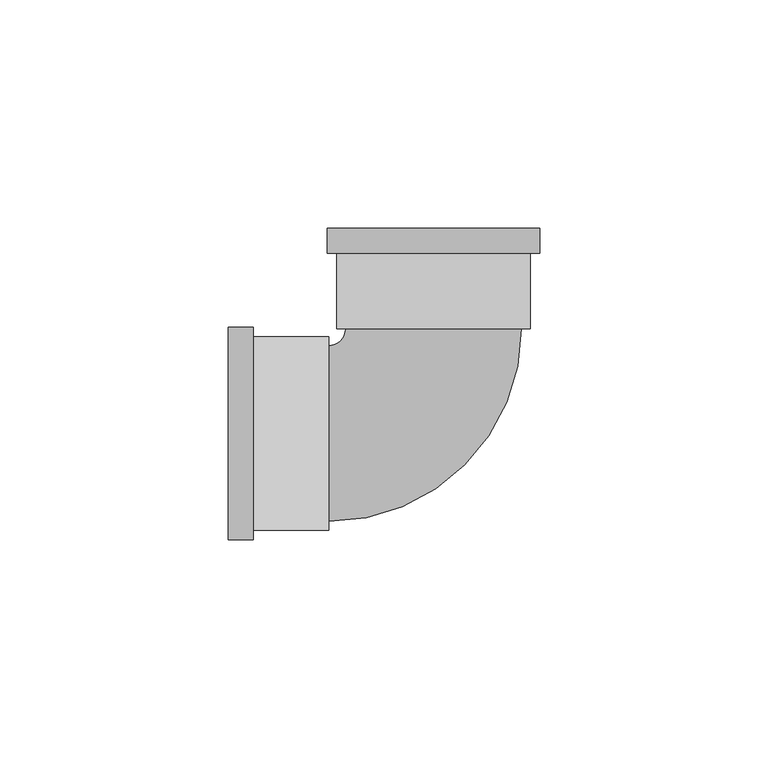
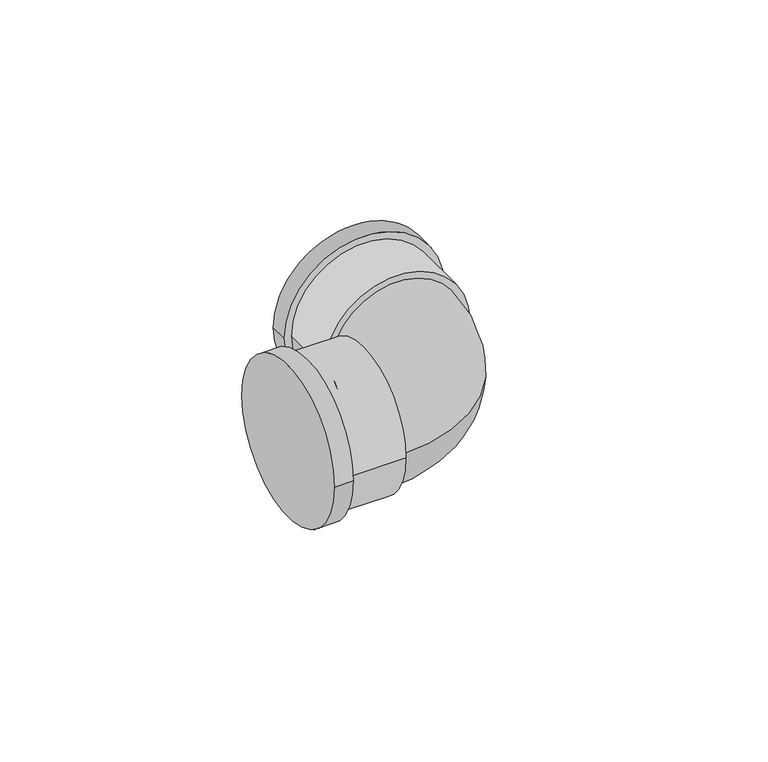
"""IFC4 building model written with IfcOpenShell, lengths in millimetres: pipe fitting geometry, Cotovelo - PVC - CW : Padrão."""

from ifc_helpers import new_model, si_unit, point, frame, origin, place, context, project, spatial, circle_curve, ellipse_curve, trimmed, source, transform, mapped, element, save
from ifc_brep_helpers import plane_surface, cylinder_surface, revolved_surface, advanced_brep


def pipe_fitting_5643bdf7(model_context):
    return source(origin(), model_context, "Body", "AdvancedBrep", [
        advanced_brep(
        [(-45.0005706, -23.2925, 0.0), (-45.0005706, 23.2925, 0.0), (-39.5005706, -23.2925, 0.0), (-39.5005706, 23.2925, 0.0), (-39.5005706, -21.175, 0.0), (-39.5005706, 21.175, 0.0), (-23.0005706, 21.175, 0.0), (-23.0005706, -21.175, 0.0), (-23.0005706, -19.25, 0.0), (-23.0005706, 19.25, 0.0), (-19.2505706, 23.000093, 0.0), (19.2494294, 23.0010482, 0.0), (21.1744294, 23.0010959, 0.0), (-21.1755706, 23.0000453, 0.0), (-23.2936164, 44.9999927, 0.0), (23.2913836, 45.0011484, 0.0), (21.17402, 39.5010959, 0.0), (-21.17598, 39.5000453, 0.0), (-23.29348, 39.4999927, 0.0), (23.29152, 39.5011485, 0.0)],
        [
            (0, 1, circle_curve(frame((-45.0005706, 0.0, 0.0), z_axis=(-1.0, 0.0, 0.0), x_axis=(0.0, 1.0, 0.0)), 23.2925)),
            (1, 0, circle_curve(frame((-45.0005706, 0.0, 0.0), z_axis=(-1.0, 0.0, 0.0), x_axis=(0.0, 1.0, 0.0)), 23.2925)),
            (2, 3, circle_curve(frame((-39.5005706, 0.0, 0.0), z_axis=(1.0, 0.0, 0.0), x_axis=(0.0, 1.0, 0.0)), 23.2925)),
            (3, 2, circle_curve(frame((-39.5005706, 0.0, 0.0), z_axis=(1.0, 0.0, 0.0), x_axis=(0.0, 1.0, 0.0)), 23.2925)),
            (4, 5, circle_curve(frame((-39.5005706, 0.0, 0.0), z_axis=(-1.0, 0.0, 0.0), x_axis=(0.0, -1.0, 0.0)), 21.175)),
            (5, 4, circle_curve(frame((-39.5005706, 0.0, 0.0), z_axis=(-1.0, 0.0, 0.0), x_axis=(0.0, -1.0, 0.0)), 21.175)),
            (0, 2),
            (3, 1),
            (6, 7, circle_curve(frame((-23.0005706, 0.0, 0.0), z_axis=(1.0, 0.0, 0.0), x_axis=(0.0, -1.0, 0.0)), 21.175)),
            (7, 6, circle_curve(frame((-23.0005706, 0.0, 0.0), z_axis=(1.0, 0.0, 0.0), x_axis=(0.0, -1.0, 0.0)), 21.175)),
            (8, 9, circle_curve(frame((-23.0005706, 0.0, 0.0), z_axis=(-1.0, 0.0, 0.0), x_axis=(0.0, 1.0, 0.0)), 19.25)),
            (9, 8, circle_curve(frame((-23.0005706, 0.0, 0.0), z_axis=(-1.0, 0.0, 0.0), x_axis=(0.0, 1.0, 0.0)), 19.25)),
            (6, 5),
            (4, 7),
            (10, 9, circle_curve(frame((-23.0005706, 23.0, 0.0), z_axis=(0.0, 0.0, -1.0), x_axis=(0.0, -1.0, 0.0)), 3.75)),
            (8, 11, circle_curve(frame((-23.0005706, 23.0, 0.0), z_axis=(0.0, 0.0, 1.0), x_axis=(0.0, -1.0, 0.0)), 42.25)),
            (11, 10, circle_curve(frame((-0.0005706, 23.0005706, 0.0), z_axis=(2.4808699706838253e-05, -0.9999999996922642, 0.0), x_axis=(-0.9999999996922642, -2.4808699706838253e-05, 0.0)), 19.25)),
            (10, 11, circle_curve(frame((-0.0005706, 23.0005706, 0.0), z_axis=(2.4808699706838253e-05, -0.9999999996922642, 0.0), x_axis=(-0.9999999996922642, -2.4808699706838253e-05, 0.0)), 19.25)),
            (12, 13, circle_curve(frame((-0.0005706, 23.0005706, 0.0), z_axis=(2.480870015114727e-05, -0.9999999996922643, 0.0), x_axis=(-0.9999999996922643, -2.480870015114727e-05, 0.0)), 21.175)),
            (13, 12, circle_curve(frame((-0.0005706, 23.0005706, 0.0), z_axis=(2.480870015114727e-05, -0.9999999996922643, 0.0), x_axis=(-0.9999999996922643, -2.480870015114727e-05, 0.0)), 21.175)),
            (14, 15, circle_curve(frame((-0.0011164, 45.0005706, 0.0), z_axis=(-2.4808699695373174e-05, 0.9999999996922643, 0.0), x_axis=(0.9999999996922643, 2.4808699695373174e-05, 0.0)), 23.2925)),
            (15, 14, circle_curve(frame((-0.0011164, 45.0005706, 0.0), z_axis=(-2.4808699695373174e-05, 0.9999999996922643, 0.0), x_axis=(0.9999999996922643, 2.4808699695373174e-05, 0.0)), 23.2925)),
            (12, 16),
            (16, 17, circle_curve(frame((-0.00098, 39.5005706, 0.0), z_axis=(2.480870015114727e-05, -0.9999999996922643, 0.0), x_axis=(-0.9999999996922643, -2.480870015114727e-05, 0.0)), 21.175)),
            (17, 13),
            (17, 16, circle_curve(frame((-0.00098, 39.5005706, 0.0), z_axis=(2.480870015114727e-05, -0.9999999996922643, 0.0), x_axis=(-0.9999999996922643, -2.480870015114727e-05, 0.0)), 21.175)),
            (18, 19, circle_curve(frame((-0.00098, 39.5005706, 0.0), z_axis=(2.4808699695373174e-05, -0.9999999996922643, 0.0), x_axis=(0.9999999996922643, 2.4808699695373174e-05, 0.0)), 23.2925)),
            (19, 18, circle_curve(frame((-0.00098, 39.5005706, 0.0), z_axis=(2.4808699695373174e-05, -0.9999999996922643, 0.0), x_axis=(0.9999999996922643, 2.4808699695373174e-05, 0.0)), 23.2925)),
            (14, 18),
            (19, 15),
        ],
        [
            plane_surface(frame((-45.0005706, 0.0, 0.0), z_axis=(-1.0, 0.0, 0.0), x_axis=(0.0, 0.0, 1.0))),
            plane_surface(frame((-39.5005706, 0.0, 0.0), z_axis=(1.0, 0.0, 0.0), x_axis=(0.0, 0.0, 1.0))),
            cylinder_surface(frame((-45.0005706, 0.0, 0.0), z_axis=(-1.0, 0.0, 0.0), x_axis=(0.0, 1.0, 0.0)), 23.2925),
            plane_surface(frame((-23.0005706, 0.0, 0.0), z_axis=(1.0, 0.0, 0.0), x_axis=(0.0, 0.0, 1.0))),
            cylinder_surface(frame((-23.0005706, 0.0, 0.0), z_axis=(1.0, 0.0, 0.0), x_axis=(0.0, -1.0, 0.0)), 21.175),
            revolved_surface(trimmed(ellipse_curve(frame((-23.0005706, 0.0, 0.0), z_axis=(-1.0, 0.0, 0.0), x_axis=(0.0, 1.0, 0.0)), 19.25, 19.25), [point((-23.0005706, -19.25, 0.0))], [point((-23.0005706, 19.25, 0.0))], True, "CARTESIAN"), (-23.0005706, 23.0, 0.0), (0.0, 0.0, 1.0)),
            revolved_surface(trimmed(ellipse_curve(frame((-23.0005706, 0.0, 0.0), z_axis=(-1.0, 0.0, 0.0), x_axis=(0.0, 1.0, 0.0)), 19.25, 19.25), [point((-23.0005706, 19.25, 0.0))], [point((-23.0005706, -19.25, 0.0))], True, "CARTESIAN"), (-23.0005706, 23.0, 0.0), (0.0, 0.0, 1.0)),
            plane_surface(frame((-0.0005706, 23.0005706, 0.0), z_axis=(2.480870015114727e-05, -0.9999999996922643, 0.0), x_axis=(0.0, 0.0, 1.0))),
            plane_surface(frame((-0.0011164, 45.0005706, 0.0), z_axis=(-2.480870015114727e-05, 0.9999999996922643, 0.0), x_axis=(0.0, 0.0, 1.0))),
            cylinder_surface(frame((-0.0005706, 23.0005706, 0.0), z_axis=(2.480870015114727e-05, -0.9999999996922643, 0.0), x_axis=(-0.9999999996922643, -2.480870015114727e-05, 0.0)), 21.175),
            plane_surface(frame((-0.00098, 39.5005706, 0.0), z_axis=(2.4808699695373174e-05, -0.9999999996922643, 0.0), x_axis=(0.0, 0.0, 1.0))),
            cylinder_surface(frame((-0.0011164, 45.0005706, 0.0), z_axis=(-2.4808699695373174e-05, 0.9999999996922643, 0.0), x_axis=(0.9999999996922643, 2.4808699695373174e-05, 0.0)), 23.2925),
        ],
        [
            (0, [[1, 2]]),
            (1, [[3, 4], [5, 6]]),
            (2, [[-1, 7, -4, 8]]),
            (2, [[-2, -8, -3, -7]]),
            (3, [[9, 10], [11, 12]]),
            (4, [[-9, 13, -5, 14]]),
            (4, [[-10, -14, -6, -13]]),
            (5, [[15, -11, 16, 17]]),
            (6, [[-15, 18, -16, -12]]),
            (7, [[19, 20], [-17, -18]]),
            (8, [[21, 22]]),
            (9, [[-19, 23, 24, 25]]),
            (9, [[-20, -25, 26, -23]]),
            (10, [[27, 28], [-24, -26]]),
            (11, [[-21, 29, -28, 30]]),
            (11, [[-22, -30, -27, -29]]),
        ],
    ),
    ])


if __name__ == "__main__":
    model = new_model("IFC4")
    model_context = context("Model", 3, world=origin())
    ifc_project = project(units=[si_unit("LENGTHUNIT", "METRE", prefix="MILLI")], contexts=[model_context])
    site = spatial("IfcSite", under=ifc_project)
    building = spatial("IfcBuilding", under=site)
    placement = place(None, origin())
    pipe_fitting_shape = pipe_fitting_5643bdf7(model_context)
    element("IfcPipeFitting", 1, ObjectType="Cotovelo - PVC - CW : Padrão", at=placement, inside=building, context=model_context, shape_type="MappedRepresentation", body=[
        mapped(pipe_fitting_shape, transform((0.0, 0.0, 0.0), x_axis=(1.0, 0.0, 0.0), y_axis=(0.0, 1.0, 0.0), z_axis=(0.0, 0.0, 1.0))),
    ])
    save(model, "model.ifc")
